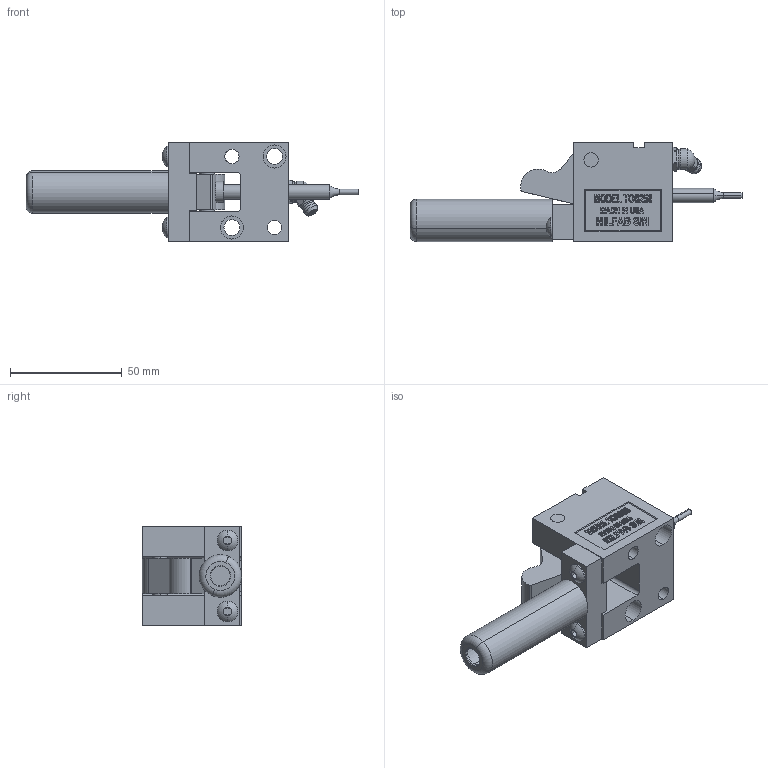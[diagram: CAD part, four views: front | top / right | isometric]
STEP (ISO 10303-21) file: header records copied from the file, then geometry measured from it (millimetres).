
FILE_DESCRIPTION (( 'STEP AP214' ), '1' );
FILE_NAME ('TOS25045-C.STEP', '2014-01-05T21:30:42', ( 'user' ), ( '' ), 'SwSTEP 2.0', 'SolidWorks 2009', '' );
FILE_SCHEMA (( 'AUTOMOTIVE_DESIGN' ));
Length unit declared in the file: inch
Products named in the file (10): 250-O-STRAP; 250 PIVOT PIN; 250-OFFSET TRIGGER; 10-SCREW; OS250-CAGE; GREASE ZERK; OS250-PUNCH; TOS250-BODY; TOS25045-C; O-250-POINT
Assembly tree (10 placements, depth 2):
  TOS25045-C
    GREASE ZERK
    OS250-CAGE
    TOS250-BODY
    10-SCREW  x2
    250 PIVOT PIN
    250-OFFSET TRIGGER
    250-O-STRAP
    OS250-PUNCH
    O-250-POINT
Bounding box: 148.44 x 44.45 x 44.45 mm (x, y, z)
Volume: 83176.3 mm3; surface area: 36186.9 mm2
Topology: 10 solids, 10 shells, 587 faces, 1519 edges, 998 vertices
Faces by surface type: plane 339, bspline 110, cylinder 86, torus 26, cone 26
Entity records: 24006 total; most frequent: CARTESIAN_POINT 10393, ORIENTED_EDGE 2954, DIRECTION 2321, EDGE_CURVE 1477, VERTEX_POINT 974, VECTOR 963, LINE 963, AXIS2_PLACEMENT_3D 679
